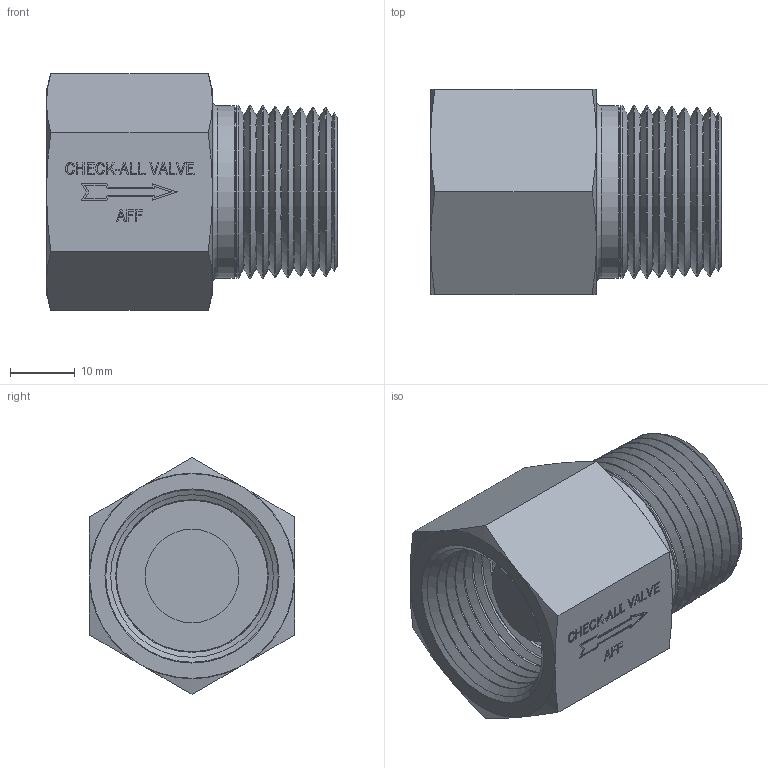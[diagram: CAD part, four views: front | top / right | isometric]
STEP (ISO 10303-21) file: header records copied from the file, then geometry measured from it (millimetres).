
FILE_DESCRIPTION(/* description */ ('Unknown'),/* implementation_level */ '2;1');
FILE_NAME(/* name */ 'AFFXXOR.500XX-WEB',/* time_stamp */ '2022-10-03T14:22:28-05:00',/* author */ ('Unknown'),/* organization */ ('Unknown'),/* preprocessor_version */ 'ST-DEVELOPER v18.102',/* originating_system */ 'Solid Edge',/* authorisation */ 'Unknown');
FILE_SCHEMA (('AUTOMOTIVE_DESIGN {1 0 10303 214 3 1 1}'));
Length unit declared in the file: inch
Products named in the file (1): AFFXXOR.500XX-WEB
Bounding box: 45.03 x 31.75 x 36.66 mm (x, y, z)
Volume: 23626.2 mm3; surface area: 9615.4 mm2
Topology: 1 solids, 1 shells, 331 faces, 840 edges, 514 vertices
Faces by surface type: plane 200, cone 74, bspline 28, torus 16, cylinder 13
Full cylindrical faces by diameter (mm): 11.786 x1, 14.478 x1, 20.625 x1, 23.421 x6, 26.67 x4
Entity records: 11652 total; most frequent: CARTESIAN_POINT 2394, ORIENTED_EDGE 1434, DIRECTION 1236, EDGE_CURVE 717, VERTEX_POINT 494, EDGE_LOOP 437, FACE_BOUND 437, AXIS2_PLACEMENT_3D 436
